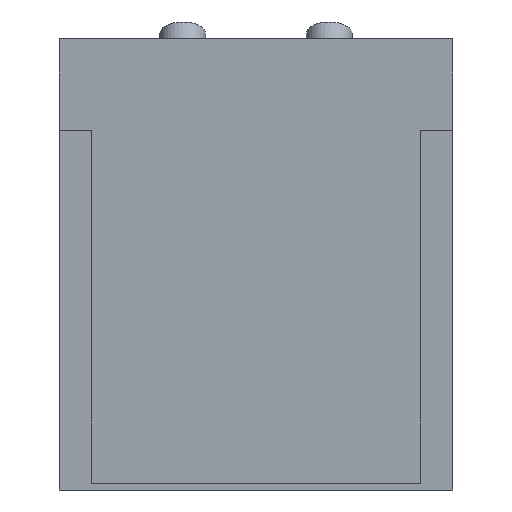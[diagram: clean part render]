
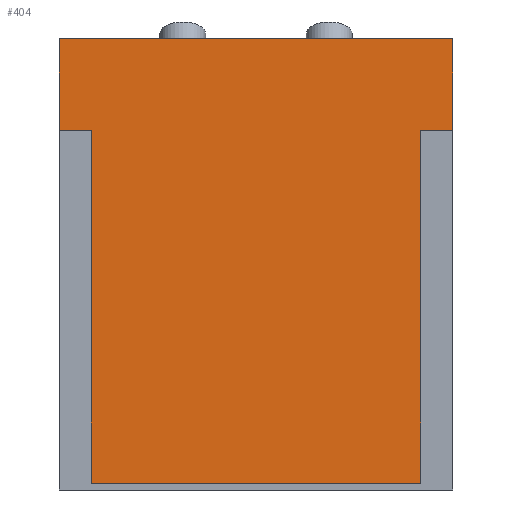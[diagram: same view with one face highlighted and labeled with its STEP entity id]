
A CAD part, front view. The second image highlights one B-rep face of the part: STEP entity #404.
In plain terms, the highlighted planar face has unit normal (0, -1, 0).
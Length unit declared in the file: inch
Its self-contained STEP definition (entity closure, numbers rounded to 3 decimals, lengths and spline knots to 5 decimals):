
#6 = VECTOR ( 'NONE', #612, 39.37008 ) ;
#9 = CARTESIAN_POINT ( 'NONE',  ( 9., -9.483, -10.6745 ) ) ;
#20 = ORIENTED_EDGE ( 'NONE', *, *, #485, .T. ) ;
#23 = LINE ( 'NONE', #459, #456 ) ;
#31 = CARTESIAN_POINT ( 'NONE',  ( -9., -9.483, -10.6745 ) ) ;
#41 = VECTOR ( 'NONE', #514, 39.37008 ) ;
#45 = VERTEX_POINT ( 'NONE', #251 ) ;
#49 = EDGE_CURVE ( 'NONE', #422, #534, #298, .T. ) ;
#67 = PLANE ( 'NONE',  #649 ) ;
#77 = ORIENTED_EDGE ( 'NONE', *, *, #557, .T. ) ;
#86 = CARTESIAN_POINT ( 'NONE',  ( -9., -9.483, -10.6745 ) ) ;
#129 = DIRECTION ( 'NONE',  ( 1., 0., 0. ) ) ;
#133 = EDGE_CURVE ( 'NONE', #479, #630, #23, .T. ) ;
#175 = EDGE_CURVE ( 'NONE', #598, #437, #600, .T. ) ;
#191 = CARTESIAN_POINT ( 'NONE',  ( 9., -9.483, 8.58492 ) ) ;
#194 = CARTESIAN_POINT ( 'NONE',  ( 9., -9.483, -10.6745 ) ) ;
#207 = VECTOR ( 'NONE', #254, 39.37008 ) ;
#217 = EDGE_CURVE ( 'NONE', #562, #437, #234, .T. ) ;
#226 = LINE ( 'NONE', #9, #357 ) ;
#234 = LINE ( 'NONE', #191, #639 ) ;
#251 = CARTESIAN_POINT ( 'NONE',  ( -9., -9.483, 8.58492 ) ) ;
#254 = DIRECTION ( 'NONE',  ( 0., 0., -1. ) ) ;
#273 = EDGE_CURVE ( 'NONE', #562, #422, #226, .T. ) ;
#287 = DIRECTION ( 'NONE',  ( 0., 0., -1. ) ) ;
#298 = LINE ( 'NONE', #634, #327 ) ;
#311 = CARTESIAN_POINT ( 'NONE',  ( 10.75, -9.483, 13.58492 ) ) ;
#327 = VECTOR ( 'NONE', #421, 39.37008 ) ;
#337 = ORIENTED_EDGE ( 'NONE', *, *, #273, .F. ) ;
#350 = ORIENTED_EDGE ( 'NONE', *, *, #49, .F. ) ;
#351 = LINE ( 'NONE', #86, #207 ) ;
#352 = LINE ( 'NONE', #311, #6 ) ;
#357 = VECTOR ( 'NONE', #384, 39.37008 ) ;
#361 = LINE ( 'NONE', #602, #41 ) ;
#384 = DIRECTION ( 'NONE',  ( 0., 0., -1. ) ) ;
#404 = ADVANCED_FACE ( 'NONE', ( #642 ), #67, .F. ) ;
#405 = CARTESIAN_POINT ( 'NONE',  ( 10.75, -9.483, 13.58492 ) ) ;
#408 = EDGE_LOOP ( 'NONE', ( #654, #77, #350, #337, #621, #535, #20, #648 ) ) ;
#421 = DIRECTION ( 'NONE',  ( -1., 0., 0. ) ) ;
#422 = VERTEX_POINT ( 'NONE', #194 ) ;
#429 = CARTESIAN_POINT ( 'NONE',  ( 9., -9.483, 8.58492 ) ) ;
#437 = VERTEX_POINT ( 'NONE', #565 ) ;
#456 = VECTOR ( 'NONE', #287, 39.37008 ) ;
#459 = CARTESIAN_POINT ( 'NONE',  ( -10.75, -9.483, 13.58492 ) ) ;
#461 = CARTESIAN_POINT ( 'NONE',  ( 10.75, -9.483, 13.58492 ) ) ;
#479 = VERTEX_POINT ( 'NONE', #539 ) ;
#485 = EDGE_CURVE ( 'NONE', #598, #479, #352, .T. ) ;
#514 = DIRECTION ( 'NONE',  ( -1., 0., 0. ) ) ;
#534 = VERTEX_POINT ( 'NONE', #31 ) ;
#535 = ORIENTED_EDGE ( 'NONE', *, *, #175, .F. ) ;
#539 = CARTESIAN_POINT ( 'NONE',  ( -10.75, -9.483, 13.58492 ) ) ;
#544 = VECTOR ( 'NONE', #607, 39.37008 ) ;
#557 = EDGE_CURVE ( 'NONE', #45, #534, #351, .T. ) ;
#562 = VERTEX_POINT ( 'NONE', #429 ) ;
#565 = CARTESIAN_POINT ( 'NONE',  ( 10.75, -9.483, 8.58492 ) ) ;
#570 = EDGE_CURVE ( 'NONE', #45, #630, #361, .T. ) ;
#572 = CARTESIAN_POINT ( 'NONE',  ( -10.75, -9.483, 8.58492 ) ) ;
#592 = CARTESIAN_POINT ( 'NONE',  ( 10.75, -9.483, 13.58492 ) ) ;
#598 = VERTEX_POINT ( 'NONE', #592 ) ;
#600 = LINE ( 'NONE', #461, #544 ) ;
#602 = CARTESIAN_POINT ( 'NONE',  ( -9., -9.483, 8.58492 ) ) ;
#607 = DIRECTION ( 'NONE',  ( 0., 0., -1. ) ) ;
#612 = DIRECTION ( 'NONE',  ( -1., 0., 0. ) ) ;
#621 = ORIENTED_EDGE ( 'NONE', *, *, #217, .T. ) ;
#628 = DIRECTION ( 'NONE',  ( 0., 1., 0. ) ) ;
#630 = VERTEX_POINT ( 'NONE', #572 ) ;
#631 = DIRECTION ( 'NONE',  ( 0., 0., 1. ) ) ;
#634 = CARTESIAN_POINT ( 'NONE',  ( 10.75, -9.483, -10.6745 ) ) ;
#639 = VECTOR ( 'NONE', #129, 39.37008 ) ;
#642 = FACE_OUTER_BOUND ( 'NONE', #408, .T. ) ;
#648 = ORIENTED_EDGE ( 'NONE', *, *, #133, .T. ) ;
#649 = AXIS2_PLACEMENT_3D ( 'NONE', #405, #628, #631 ) ;
#654 = ORIENTED_EDGE ( 'NONE', *, *, #570, .F. ) ;
